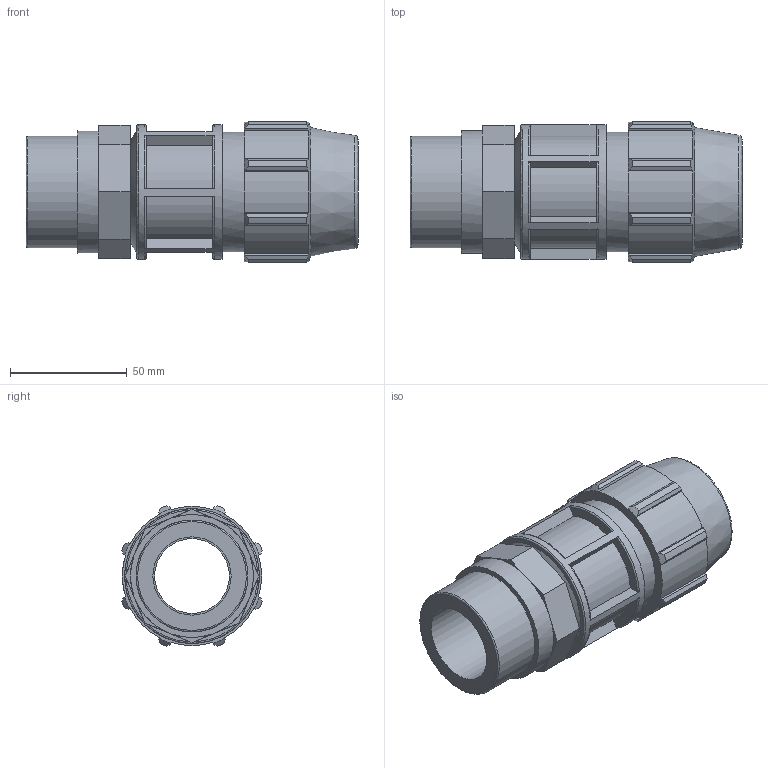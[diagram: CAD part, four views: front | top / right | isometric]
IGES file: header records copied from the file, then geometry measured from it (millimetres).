
Global section: file name: 077200032015_187200032015_0772060320150A.ipt; native system: Autodesk Inventor 2015; preprocessor: unknown; author: KIM; date: 20170606.174236; units: millimetre
Bounding box: 142 x 60.22 x 60.22 mm (x, y, z)
Volume: 190537.3 mm3; surface area: 47974.5 mm2
Topology: 1 solids, 1 shells, 137 faces, 368 edges, 245 vertices
Faces by surface type: plane 81, cylinder 26, revolution 19, cone 11
Full cylindrical faces by diameter (mm): 47.803 x1, 51.2 x1, 52.583 x1, 57.6 x1
